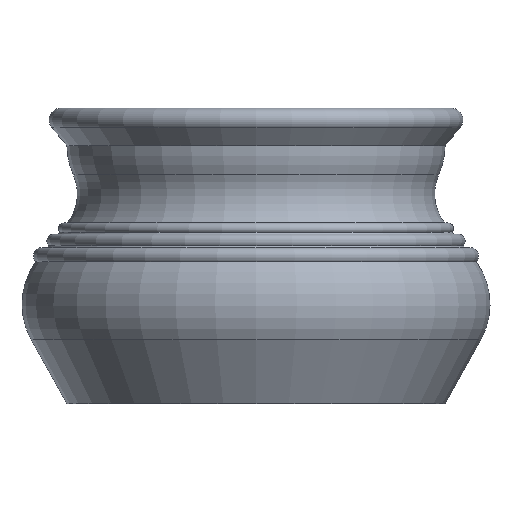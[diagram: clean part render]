
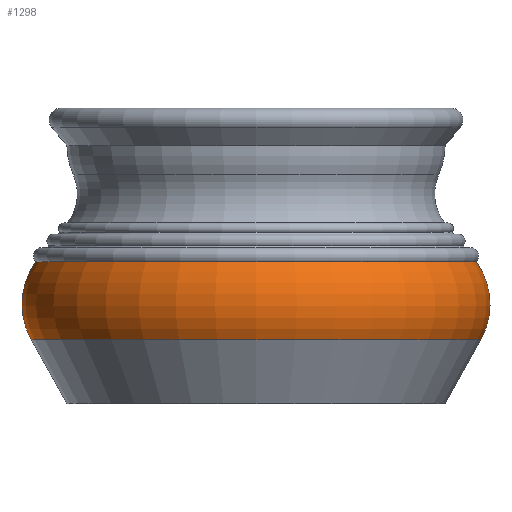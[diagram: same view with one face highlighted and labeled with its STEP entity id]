
A CAD part, front view. The second image highlights one B-rep face of the part: STEP entity #1298.
In plain terms, the highlighted toroidal (fillet/blend) face has major radius 68.45 mm and minor radius 30.55 mm.
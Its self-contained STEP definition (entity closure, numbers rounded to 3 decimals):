
#22=TOROIDAL_SURFACE('',#1475,68.45,30.55);
#164=FACE_OUTER_BOUND('',#280,.T.);
#280=EDGE_LOOP('',(#1187,#1188,#1189,#1190));
#517=CIRCLE('',#1439,95.128);
#539=CIRCLE('',#1476,93.152);
#540=CIRCLE('',#1477,30.55);
#642=VERTEX_POINT('',#2198);
#657=VERTEX_POINT('',#2257);
#805=EDGE_CURVE('',#642,#642,#517,.T.);
#834=EDGE_CURVE('',#657,#657,#539,.T.);
#835=EDGE_CURVE('',#657,#642,#540,.T.);
#1187=ORIENTED_EDGE('',*,*,#834,.F.);
#1188=ORIENTED_EDGE('',*,*,#835,.T.);
#1189=ORIENTED_EDGE('',*,*,#805,.T.);
#1190=ORIENTED_EDGE('',*,*,#835,.F.);
#1298=ADVANCED_FACE('',(#164),#22,.T.);
#1439=AXIS2_PLACEMENT_3D('',#2199,#1805,#1806);
#1475=AXIS2_PLACEMENT_3D('',#2256,#1884,#1885);
#1476=AXIS2_PLACEMENT_3D('',#2258,#1886,#1887);
#1477=AXIS2_PLACEMENT_3D('',#2259,#1888,#1889);
#1805=DIRECTION('center_axis',(0.,0.,1.));
#1806=DIRECTION('ref_axis',(1.,0.,0.));
#1884=DIRECTION('center_axis',(0.,0.,1.));
#1885=DIRECTION('ref_axis',(1.,0.,0.));
#1886=DIRECTION('center_axis',(0.,0.,1.));
#1887=DIRECTION('ref_axis',(1.,0.,0.));
#1888=DIRECTION('center_axis',(0.,-1.,0.));
#1889=DIRECTION('ref_axis',(-1.,0.,0.));
#2198=CARTESIAN_POINT('',(-95.128,0.,27.115));
#2199=CARTESIAN_POINT('Origin',(0.,0.,27.115));
#2256=CARTESIAN_POINT('Origin',(0.,0.,42.));
#2257=CARTESIAN_POINT('',(-93.152,0.,59.976));
#2258=CARTESIAN_POINT('Origin',(0.,0.,59.976));
#2259=CARTESIAN_POINT('Origin',(-68.45,0.,
42.));
